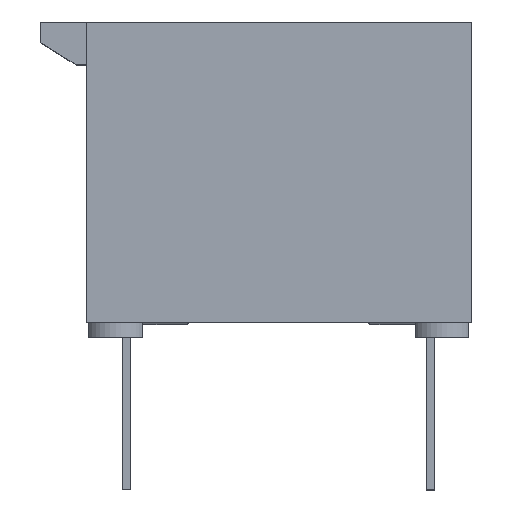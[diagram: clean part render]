
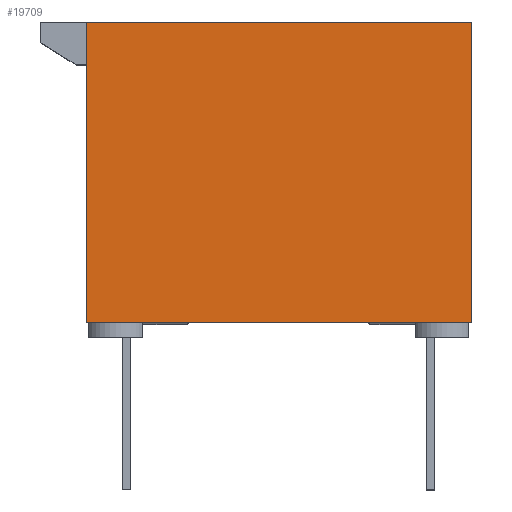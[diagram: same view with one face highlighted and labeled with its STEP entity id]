
A CAD part, top view. The second image highlights one B-rep face of the part: STEP entity #19709.
In plain terms, the highlighted planar face has unit normal (0, 0, 1).
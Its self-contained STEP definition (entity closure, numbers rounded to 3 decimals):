
#553 = LINE ( 'NONE', #6941, #3950 ) ;
#1209 = DIRECTION ( 'NONE',  ( 0., 0., -1. ) ) ;
#1225 = ORIENTED_EDGE ( 'NONE', *, *, #4239, .T. ) ;
#2192 = ORIENTED_EDGE ( 'NONE', *, *, #15970, .T. ) ;
#3226 = DIRECTION ( 'NONE',  ( 0., -1., 0. ) ) ;
#3950 = VECTOR ( 'NONE', #13306, 1000. ) ;
#4095 = CARTESIAN_POINT ( 'NONE',  ( 4.763, 7.518, 0. ) ) ;
#4239 = EDGE_CURVE ( 'NONE', #20153, #6507, #10629, .T. ) ;
#4297 = EDGE_CURVE ( 'NONE', #5986, #20153, #8876, .T. ) ;
#4522 = VERTEX_POINT ( 'NONE', #8926 ) ;
#4651 = VECTOR ( 'NONE', #7716, 1000. ) ;
#4842 = VECTOR ( 'NONE', #3226, 1000. ) ;
#5986 = VERTEX_POINT ( 'NONE', #12717 ) ;
#6507 = VERTEX_POINT ( 'NONE', #18950 ) ;
#6941 = CARTESIAN_POINT ( 'NONE',  ( 4.763, 0., 0. ) ) ;
#7205 = VECTOR ( 'NONE', #16003, 1000. ) ;
#7505 = CARTESIAN_POINT ( 'NONE',  ( -4.407, 0., 0. ) ) ;
#7605 = CARTESIAN_POINT ( 'NONE',  ( -4.407, 0., 0. ) ) ;
#7716 = DIRECTION ( 'NONE',  ( 1., 0., 0. ) ) ;
#7825 = LINE ( 'NONE', #14321, #7205 ) ;
#8498 = ORIENTED_EDGE ( 'NONE', *, *, #14522, .T. ) ;
#8508 = AXIS2_PLACEMENT_3D ( 'NONE', #20286, #1209, #16937 ) ;
#8831 = VERTEX_POINT ( 'NONE', #9907 ) ;
#8876 = LINE ( 'NONE', #7505, #4651 ) ;
#8926 = CARTESIAN_POINT ( 'NONE',  ( 4.763, 0., 0. ) ) ;
#9108 = CARTESIAN_POINT ( 'NONE',  ( -4.153, 0., 0. ) ) ;
#9907 = CARTESIAN_POINT ( 'NONE',  ( -4.89, 7.518, 0. ) ) ;
#10629 = LINE ( 'NONE', #7605, #16734 ) ;
#11680 = VERTEX_POINT ( 'NONE', #14277 ) ;
#12176 = DIRECTION ( 'NONE',  ( -1., 0., 0. ) ) ;
#12435 = CARTESIAN_POINT ( 'NONE',  ( -4.889, 0., 0. ) ) ;
#12540 = LINE ( 'NONE', #12435, #4842 ) ;
#12717 = CARTESIAN_POINT ( 'NONE',  ( -4.889, 0., 0. ) ) ;
#12847 = ORIENTED_EDGE ( 'NONE', *, *, #17422, .T. ) ;
#13306 = DIRECTION ( 'NONE',  ( 0., 1., 0. ) ) ;
#13658 = FACE_OUTER_BOUND ( 'NONE', #20031, .T. ) ;
#14277 = CARTESIAN_POINT ( 'NONE',  ( 4.763, 7.518, 0. ) ) ;
#14321 = CARTESIAN_POINT ( 'NONE',  ( -4.407, 0., 0. ) ) ;
#14522 = EDGE_CURVE ( 'NONE', #4522, #11680, #553, .T. ) ;
#14580 = VECTOR ( 'NONE', #12176, 1000. ) ;
#15676 = PLANE ( 'NONE',  #8508 ) ;
#15970 = EDGE_CURVE ( 'NONE', #6507, #4522, #7825, .T. ) ;
#16003 = DIRECTION ( 'NONE',  ( 1., 0., 0. ) ) ;
#16563 = ORIENTED_EDGE ( 'NONE', *, *, #17171, .T. ) ;
#16734 = VECTOR ( 'NONE', #18816, 1000. ) ;
#16937 = DIRECTION ( 'NONE',  ( -1., 0., 0. ) ) ;
#17171 = EDGE_CURVE ( 'NONE', #8831, #5986, #12540, .T. ) ;
#17422 = EDGE_CURVE ( 'NONE', #11680, #8831, #18681, .T. ) ;
#18681 = LINE ( 'NONE', #4095, #14580 ) ;
#18804 = ORIENTED_EDGE ( 'NONE', *, *, #4297, .T. ) ;
#18816 = DIRECTION ( 'NONE',  ( 1., 0., 0. ) ) ;
#18950 = CARTESIAN_POINT ( 'NONE',  ( 4.026, 0., 0. ) ) ;
#19709 = ADVANCED_FACE ( 'NONE', ( #13658 ), #15676, .F. ) ;
#20031 = EDGE_LOOP ( 'NONE', ( #12847, #16563, #18804, #1225, #2192, #8498 ) ) ;
#20153 = VERTEX_POINT ( 'NONE', #9108 ) ;
#20286 = CARTESIAN_POINT ( 'NONE',  ( -4.889, 0., 0. ) ) ;
